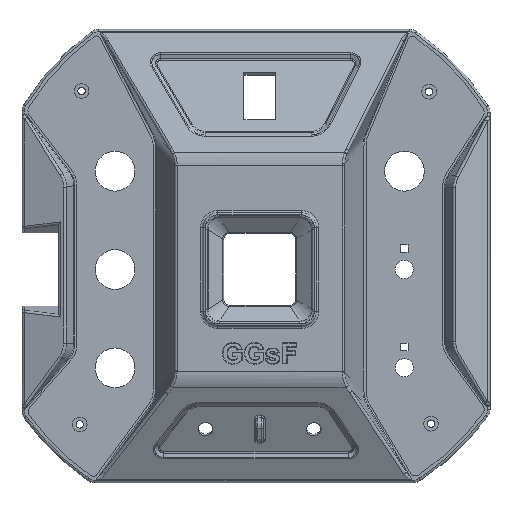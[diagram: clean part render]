
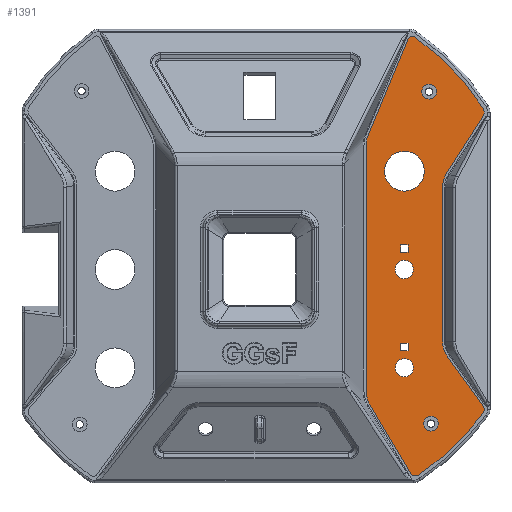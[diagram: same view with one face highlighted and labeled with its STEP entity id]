
A CAD part, top view. The second image highlights one B-rep face of the part: STEP entity #1391.
In plain terms, the highlighted planar face has unit normal (0, 0, 1).
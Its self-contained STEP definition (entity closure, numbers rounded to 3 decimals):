
#1391=ADVANCED_FACE('',(#2724,#2725,#2726,#2727,#2728,#2729,#2730,#2731),
#2113,.F.);
#2113=PLANE('',#12365);
#2724=FACE_BOUND('',#2865,.T.);
#2725=FACE_BOUND('',#2866,.T.);
#2726=FACE_BOUND('',#2867,.T.);
#2727=FACE_BOUND('',#2868,.T.);
#2728=FACE_BOUND('',#2869,.T.);
#2729=FACE_BOUND('',#2870,.T.);
#2730=FACE_BOUND('',#2871,.T.);
#2731=FACE_BOUND('',#2872,.T.);
#2865=EDGE_LOOP('',(#4487));
#2866=EDGE_LOOP('',(#4488));
#2867=EDGE_LOOP('',(#4489,#4490,#4491,#4492));
#2868=EDGE_LOOP('',(#4493,#4494,#4495,#4496,#4497,#4498,#4499,#4500,#4501,
#4502,#4503,#4504,#4505,#4506,#4507,#4508));
#2869=EDGE_LOOP('',(#4509,#4510,#4511,#4512));
#2870=EDGE_LOOP('',(#4513));
#2871=EDGE_LOOP('',(#4514));
#2872=EDGE_LOOP('',(#4515));
#3726=CIRCLE('',#12350,3.7);
#3727=CIRCLE('',#12351,3.);
#3728=CIRCLE('',#12352,10.2);
#3729=CIRCLE('',#12353,2.2);
#3730=CIRCLE('',#12354,104.09);
#3731=CIRCLE('',#12355,2.7);
#3732=CIRCLE('',#12356,9.8);
#3733=CIRCLE('',#12357,9.8);
#3734=CIRCLE('',#12358,3.2);
#3735=CIRCLE('',#12359,99.09);
#3736=CIRCLE('',#12360,1.7);
#3737=CIRCLE('',#12361,10.2);
#3738=CIRCLE('',#12362,3.);
#3739=CIRCLE('',#12363,8.1);
#3740=CIRCLE('',#12364,3.7);
#4487=ORIENTED_EDGE('',*,*,#9104,.F.);
#4488=ORIENTED_EDGE('',*,*,#9105,.F.);
#4489=ORIENTED_EDGE('',*,*,#9106,.F.);
#4490=ORIENTED_EDGE('',*,*,#9107,.F.);
#4491=ORIENTED_EDGE('',*,*,#9108,.F.);
#4492=ORIENTED_EDGE('',*,*,#9109,.F.);
#4493=ORIENTED_EDGE('',*,*,#9110,.F.);
#4494=ORIENTED_EDGE('',*,*,#9111,.F.);
#4495=ORIENTED_EDGE('',*,*,#9112,.F.);
#4496=ORIENTED_EDGE('',*,*,#9113,.F.);
#4497=ORIENTED_EDGE('',*,*,#9114,.F.);
#4498=ORIENTED_EDGE('',*,*,#9115,.F.);
#4499=ORIENTED_EDGE('',*,*,#9116,.F.);
#4500=ORIENTED_EDGE('',*,*,#9117,.F.);
#4501=ORIENTED_EDGE('',*,*,#9118,.F.);
#4502=ORIENTED_EDGE('',*,*,#9119,.F.);
#4503=ORIENTED_EDGE('',*,*,#9120,.F.);
#4504=ORIENTED_EDGE('',*,*,#9121,.F.);
#4505=ORIENTED_EDGE('',*,*,#9122,.F.);
#4506=ORIENTED_EDGE('',*,*,#9123,.F.);
#4507=ORIENTED_EDGE('',*,*,#9124,.F.);
#4508=ORIENTED_EDGE('',*,*,#9125,.F.);
#4509=ORIENTED_EDGE('',*,*,#9126,.F.);
#4510=ORIENTED_EDGE('',*,*,#9127,.F.);
#4511=ORIENTED_EDGE('',*,*,#9128,.F.);
#4512=ORIENTED_EDGE('',*,*,#9129,.F.);
#4513=ORIENTED_EDGE('',*,*,#9130,.T.);
#4514=ORIENTED_EDGE('',*,*,#9131,.F.);
#4515=ORIENTED_EDGE('',*,*,#9132,.F.);
#7993=VERTEX_POINT('',#17776);
#7994=VERTEX_POINT('',#17778);
#7995=VERTEX_POINT('',#17780);
#7996=VERTEX_POINT('',#17781);
#7997=VERTEX_POINT('',#17783);
#7998=VERTEX_POINT('',#17785);
#7999=VERTEX_POINT('',#17788);
#8000=VERTEX_POINT('',#17789);
#8001=VERTEX_POINT('',#17791);
#8002=VERTEX_POINT('',#17793);
#8003=VERTEX_POINT('',#17795);
#8004=VERTEX_POINT('',#17797);
#8005=VERTEX_POINT('',#17799);
#8006=VERTEX_POINT('',#17801);
#8007=VERTEX_POINT('',#17803);
#8008=VERTEX_POINT('',#17805);
#8009=VERTEX_POINT('',#17807);
#8010=VERTEX_POINT('',#17809);
#8011=VERTEX_POINT('',#17811);
#8012=VERTEX_POINT('',#17813);
#8013=VERTEX_POINT('',#17815);
#8014=VERTEX_POINT('',#17817);
#8015=VERTEX_POINT('',#17820);
#8016=VERTEX_POINT('',#17821);
#8017=VERTEX_POINT('',#17823);
#8018=VERTEX_POINT('',#17825);
#8019=VERTEX_POINT('',#17828);
#8020=VERTEX_POINT('',#17830);
#8021=VERTEX_POINT('',#17832);
#9104=EDGE_CURVE('',#7993,#7993,#3726,.T.);
#9105=EDGE_CURVE('',#7994,#7994,#3727,.T.);
#9106=EDGE_CURVE('',#7995,#7996,#10709,.T.);
#9107=EDGE_CURVE('',#7997,#7995,#10710,.T.);
#9108=EDGE_CURVE('',#7998,#7997,#10711,.T.);
#9109=EDGE_CURVE('',#7996,#7998,#10712,.T.);
#9110=EDGE_CURVE('',#7999,#8000,#10713,.T.);
#9111=EDGE_CURVE('',#8001,#7999,#3728,.T.);
#9112=EDGE_CURVE('',#8002,#8001,#10714,.T.);
#9113=EDGE_CURVE('',#8003,#8002,#3729,.T.);
#9114=EDGE_CURVE('',#8004,#8003,#3730,.T.);
#9115=EDGE_CURVE('',#8005,#8004,#3731,.T.);
#9116=EDGE_CURVE('',#8006,#8005,#10715,.T.);
#9117=EDGE_CURVE('',#8007,#8006,#3732,.T.);
#9118=EDGE_CURVE('',#8008,#8007,#10716,.T.);
#9119=EDGE_CURVE('',#8009,#8008,#3733,.T.);
#9120=EDGE_CURVE('',#8010,#8009,#10717,.T.);
#9121=EDGE_CURVE('',#8011,#8010,#3734,.T.);
#9122=EDGE_CURVE('',#8012,#8011,#3735,.T.);
#9123=EDGE_CURVE('',#8013,#8012,#3736,.T.);
#9124=EDGE_CURVE('',#8014,#8013,#10718,.T.);
#9125=EDGE_CURVE('',#8000,#8014,#3737,.T.);
#9126=EDGE_CURVE('',#8015,#8016,#10719,.T.);
#9127=EDGE_CURVE('',#8017,#8015,#10720,.T.);
#9128=EDGE_CURVE('',#8018,#8017,#10721,.T.);
#9129=EDGE_CURVE('',#8016,#8018,#10722,.T.);
#9130=EDGE_CURVE('',#8019,#8019,#3738,.T.);
#9131=EDGE_CURVE('',#8020,#8020,#3739,.T.);
#9132=EDGE_CURVE('',#8021,#8021,#3740,.T.);
#10709=LINE('',#17779,#11538);
#10710=LINE('',#17782,#11539);
#10711=LINE('',#17784,#11540);
#10712=LINE('',#17786,#11541);
#10713=LINE('',#17787,#11542);
#10714=LINE('',#17792,#11543);
#10715=LINE('',#17800,#11544);
#10716=LINE('',#17804,#11545);
#10717=LINE('',#17808,#11546);
#10718=LINE('',#17816,#11547);
#10719=LINE('',#17819,#11548);
#10720=LINE('',#17822,#11549);
#10721=LINE('',#17824,#11550);
#10722=LINE('',#17826,#11551);
#11538=VECTOR('',#13847,1.);
#11539=VECTOR('',#13848,1.);
#11540=VECTOR('',#13849,1.);
#11541=VECTOR('',#13850,1.);
#11542=VECTOR('',#13851,1.);
#11543=VECTOR('',#13854,1.);
#11544=VECTOR('',#13861,1.);
#11545=VECTOR('',#13864,1.);
#11546=VECTOR('',#13867,1.);
#11547=VECTOR('',#13874,1.);
#11548=VECTOR('',#13877,1.);
#11549=VECTOR('',#13878,1.);
#11550=VECTOR('',#13879,1.);
#11551=VECTOR('',#13880,1.);
#12350=AXIS2_PLACEMENT_3D('',#17775,#13843,#13844);
#12351=AXIS2_PLACEMENT_3D('',#17777,#13845,#13846);
#12352=AXIS2_PLACEMENT_3D('',#17790,#13852,#13853);
#12353=AXIS2_PLACEMENT_3D('',#17794,#13855,#13856);
#12354=AXIS2_PLACEMENT_3D('',#17796,#13857,#13858);
#12355=AXIS2_PLACEMENT_3D('',#17798,#13859,#13860);
#12356=AXIS2_PLACEMENT_3D('',#17802,#13862,#13863);
#12357=AXIS2_PLACEMENT_3D('',#17806,#13865,#13866);
#12358=AXIS2_PLACEMENT_3D('',#17810,#13868,#13869);
#12359=AXIS2_PLACEMENT_3D('',#17812,#13870,#13871);
#12360=AXIS2_PLACEMENT_3D('',#17814,#13872,#13873);
#12361=AXIS2_PLACEMENT_3D('',#17818,#13875,#13876);
#12362=AXIS2_PLACEMENT_3D('',#17827,#13881,#13882);
#12363=AXIS2_PLACEMENT_3D('',#17829,#13883,#13884);
#12364=AXIS2_PLACEMENT_3D('',#17831,#13885,#13886);
#12365=AXIS2_PLACEMENT_3D('',#17833,#13887,#13888);
#13843=DIRECTION('',(0.,0.,1.));
#13844=DIRECTION('',(-1.,0.,0.));
#13845=DIRECTION('',(0.,0.,1.));
#13846=DIRECTION('',(0.,-1.,0.));
#13847=DIRECTION('',(0.,1.,0.));
#13848=DIRECTION('',(1.,0.,0.));
#13849=DIRECTION('',(0.,-1.,0.));
#13850=DIRECTION('',(-1.,0.,0.));
#13851=DIRECTION('',(0.,1.,0.));
#13852=DIRECTION('',(0.,0.,-1.));
#13853=DIRECTION('',(-1.,0.,0.));
#13854=DIRECTION('',(-0.511,0.859,0.));
#13855=DIRECTION('',(0.,0.,-1.));
#13856=DIRECTION('',(-1.,0.,0.));
#13857=DIRECTION('',(0.,0.,-1.));
#13858=DIRECTION('',(-1.,0.,0.));
#13859=DIRECTION('',(0.,0.,-1.));
#13860=DIRECTION('',(-1.,0.,0.));
#13861=DIRECTION('',(0.584,-0.812,0.));
#13862=DIRECTION('',(0.,0.,1.));
#13863=DIRECTION('',(-1.,0.,0.));
#13864=DIRECTION('',(0.,-1.,0.));
#13865=DIRECTION('',(0.,0.,1.));
#13866=DIRECTION('',(-1.,0.,0.));
#13867=DIRECTION('',(-0.538,-0.843,0.));
#13868=DIRECTION('',(0.,0.,-1.));
#13869=DIRECTION('',(-1.,0.,0.));
#13870=DIRECTION('',(0.,0.,-1.));
#13871=DIRECTION('',(-1.,0.,0.));
#13872=DIRECTION('',(0.,0.,-1.));
#13873=DIRECTION('',(-1.,0.,0.));
#13874=DIRECTION('',(0.384,0.923,0.));
#13875=DIRECTION('',(0.,0.,-1.));
#13876=DIRECTION('',(-1.,0.,0.));
#13877=DIRECTION('',(0.,1.,0.));
#13878=DIRECTION('',(1.,0.,0.));
#13879=DIRECTION('',(0.,-1.,0.));
#13880=DIRECTION('',(-1.,0.,0.));
#13881=DIRECTION('',(0.,0.,-1.));
#13882=DIRECTION('',(0.,-1.,0.));
#13883=DIRECTION('',(0.,0.,1.));
#13884=DIRECTION('',(-1.,0.,0.));
#13885=DIRECTION('',(0.,0.,1.));
#13886=DIRECTION('',(-1.,0.,0.));
#13887=DIRECTION('',(0.,0.,-1.));
#13888=DIRECTION('',(-1.,0.,0.));
#17775=CARTESIAN_POINT('',(148.638,65.,38.));
#17776=CARTESIAN_POINT('',(144.938,65.,38.));
#17777=CARTESIAN_POINT('',(159.463,2.298,38.));
#17778=CARTESIAN_POINT('',(159.463,-0.702,38.));
#17779=CARTESIAN_POINT('',(150.138,73.,38.));
#17780=CARTESIAN_POINT('',(150.138,72.,38.));
#17781=CARTESIAN_POINT('',(150.138,75.,38.));
#17782=CARTESIAN_POINT('',(147.138,72.,38.));
#17783=CARTESIAN_POINT('',(147.138,72.,38.));
#17784=CARTESIAN_POINT('',(147.138,75.,38.));
#17785=CARTESIAN_POINT('',(147.138,75.,38.));
#17786=CARTESIAN_POINT('',(150.138,75.,38.));
#17787=CARTESIAN_POINT('',(133.088,77.938,38.));
#17788=CARTESIAN_POINT('',(133.088,15.437,38.));
#17789=CARTESIAN_POINT('',(133.088,115.507,38.));
#17790=CARTESIAN_POINT('',(143.288,15.437,38.));
#17791=CARTESIAN_POINT('',(134.522,10.222,38.));
#17792=CARTESIAN_POINT('',(94.89,76.845,38.));
#17793=CARTESIAN_POINT('',(151.255,-17.906,38.));
#17794=CARTESIAN_POINT('',(153.145,-16.781,38.));
#17795=CARTESIAN_POINT('',(154.364,-18.613,38.));
#17796=CARTESIAN_POINT('',(96.726,68.062,38.));
#17797=CARTESIAN_POINT('',(180.581,6.394,38.));
#17798=CARTESIAN_POINT('',(178.406,7.993,38.));
#17799=CARTESIAN_POINT('',(180.597,9.571,38.));
#17800=CARTESIAN_POINT('',(119.556,94.371,38.));
#17801=CARTESIAN_POINT('',(166.035,29.801,38.));
#17802=CARTESIAN_POINT('',(173.988,35.526,38.));
#17803=CARTESIAN_POINT('',(164.188,35.526,38.));
#17804=CARTESIAN_POINT('',(164.188,77.938,38.));
#17805=CARTESIAN_POINT('',(164.188,98.588,38.));
#17806=CARTESIAN_POINT('',(173.988,98.588,38.));
#17807=CARTESIAN_POINT('',(165.729,103.862,38.));
#17808=CARTESIAN_POINT('',(133.981,54.147,38.));
#17809=CARTESIAN_POINT('',(180.634,127.202,38.));
#17810=CARTESIAN_POINT('',(177.937,128.924,38.));
#17811=CARTESIAN_POINT('',(180.647,130.626,38.));
#17812=CARTESIAN_POINT('',(96.726,77.938,38.));
#17813=CARTESIAN_POINT('',(152.799,159.636,38.));
#17814=CARTESIAN_POINT('',(151.837,158.234,38.));
#17815=CARTESIAN_POINT('',(150.267,158.887,38.));
#17816=CARTESIAN_POINT('',(113.703,70.884,38.));
#17817=CARTESIAN_POINT('',(133.869,119.42,38.));
#17818=CARTESIAN_POINT('',(143.288,115.507,38.));
#17819=CARTESIAN_POINT('',(150.138,33.,38.));
#17820=CARTESIAN_POINT('',(150.138,32.,38.));
#17821=CARTESIAN_POINT('',(150.138,35.,38.));
#17822=CARTESIAN_POINT('',(147.138,32.,38.));
#17823=CARTESIAN_POINT('',(147.138,32.,38.));
#17824=CARTESIAN_POINT('',(147.138,35.,38.));
#17825=CARTESIAN_POINT('',(147.138,35.,38.));
#17826=CARTESIAN_POINT('',(150.138,35.,38.));
#17827=CARTESIAN_POINT('',(158.734,137.369,38.));
#17828=CARTESIAN_POINT('',(158.734,134.369,38.));
#17829=CARTESIAN_POINT('',(148.638,105.,38.));
#17830=CARTESIAN_POINT('',(140.538,105.,38.));
#17831=CARTESIAN_POINT('',(148.638,25.,38.));
#17832=CARTESIAN_POINT('',(144.938,25.,38.));
#17833=CARTESIAN_POINT('',(96.726,77.938,38.));
